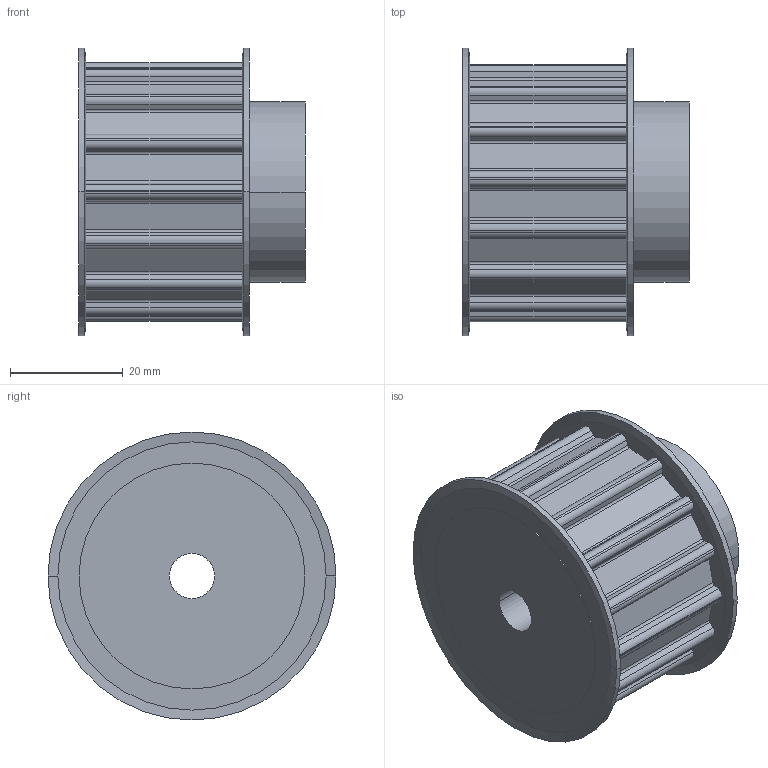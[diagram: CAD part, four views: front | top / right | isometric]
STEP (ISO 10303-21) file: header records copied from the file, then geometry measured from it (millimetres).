
FILE_DESCRIPTION( ( '' ), '1' );
FILE_NAME( 'C:/Users/Stangenbergd/Documents/CAD_Step/1/16831500.stp', '2021-10-19T09:45:13', ( '' ), ( '' ), ' ', ' ', ' ' );
FILE_SCHEMA( ( 'CONFIG_CONTROL_DESIGN' ) );
Length unit declared in the file: millimetre
Products named in the file (1): 1
Bounding box: 40.1 x 51 x 51 mm (x, y, z)
Volume: 50234.7 mm3; surface area: 12366.9 mm2
Topology: 1 solids, 1 shells, 148 faces, 415 edges, 274 vertices
Faces by surface type: cylinder 88, plane 52, cone 8
Entity records: 4887 total; most frequent: DIRECTION 897, CARTESIAN_POINT 838, ORIENTED_EDGE 830, EDGE_CURVE 415, AXIS2_PLACEMENT_3D 333, VERTEX_POINT 274, LINE 231, VECTOR 231
